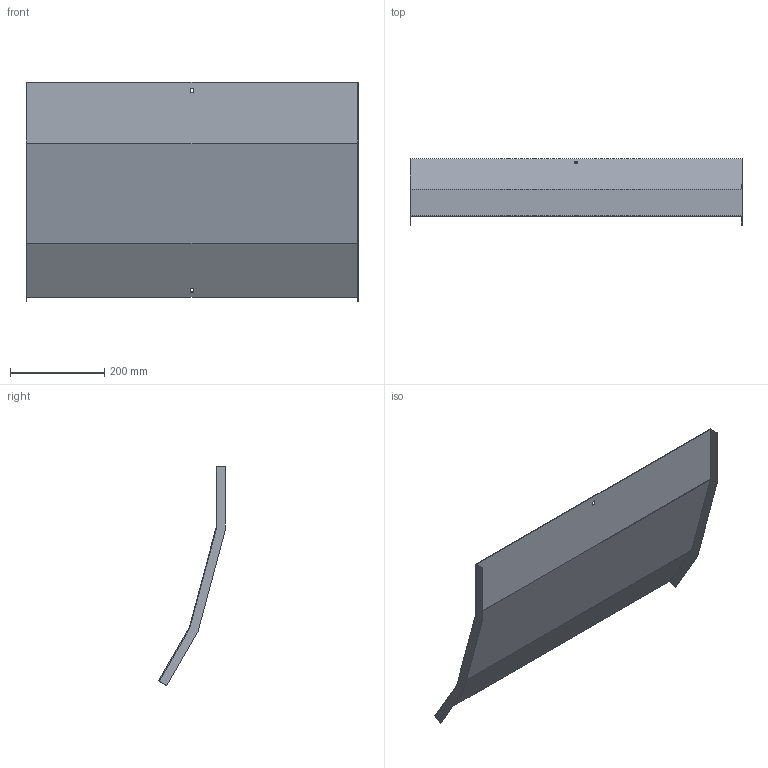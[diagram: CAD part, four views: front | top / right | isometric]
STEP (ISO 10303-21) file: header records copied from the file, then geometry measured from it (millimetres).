
FILE_DESCRIPTION (( 'STEP AP214' ), '1' );
FILE_NAME ('32N5R700_H150.step', '2025-02-21T14:28:20', ( '' ), ( '' ), 'SwSTEP 2.0', 'SolidWorks 2023', '' );
FILE_SCHEMA (( 'AUTOMOTIVE_DESIGN' ));
Length unit declared in the file: millimetre
Products named in the file (1): 32N5R700_H150
Bounding box: 703 x 141.68 x 464.12 mm (x, y, z)
Volume: 532245.2 mm3; surface area: 713440.6 mm2
Topology: 1 solids, 1 shells, 26 faces, 72 edges, 48 vertices
Faces by surface type: plane 26
Entity records: 847 total; most frequent: CARTESIAN_POINT 147, ORIENTED_EDGE 144, DIRECTION 126, EDGE_CURVE 72, LINE 72, VECTOR 72, VERTEX_POINT 48, EDGE_LOOP 30
